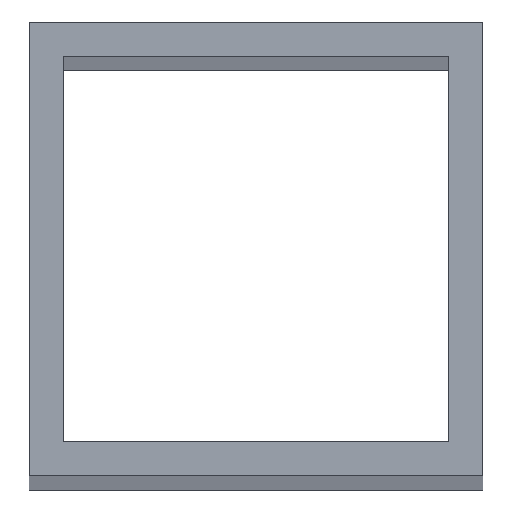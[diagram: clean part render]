
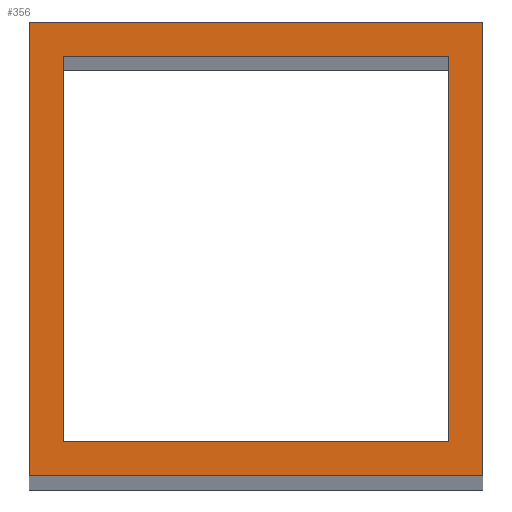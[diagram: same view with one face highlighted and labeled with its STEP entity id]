
A CAD part, top view. The second image highlights one B-rep face of the part: STEP entity #356.
In plain terms, the highlighted planar face has unit normal (0, 0, 1).
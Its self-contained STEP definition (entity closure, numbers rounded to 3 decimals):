
#32 = PLANE('',#33);
#33 = AXIS2_PLACEMENT_3D('',#34,#35,#36);
#34 = CARTESIAN_POINT('',(-20.,-20.,0.));
#35 = DIRECTION('',(0.,1.,0.));
#36 = DIRECTION('',(1.,0.,0.));
#55 = VERTEX_POINT('',#56);
#56 = CARTESIAN_POINT('',(-20.,-20.,758.));
#70 = PLANE('',#71);
#71 = AXIS2_PLACEMENT_3D('',#72,#73,#74);
#72 = CARTESIAN_POINT('',(-20.,20.,0.));
#73 = DIRECTION('',(1.,0.,-0.));
#74 = DIRECTION('',(0.,-1.,0.));
#82 = EDGE_CURVE('',#55,#83,#85,.T.);
#83 = VERTEX_POINT('',#84);
#84 = CARTESIAN_POINT('',(20.,-20.,758.));
#85 = SURFACE_CURVE('',#86,(#90,#96),.PCURVE_S1.);
#86 = LINE('',#87,#88);
#87 = CARTESIAN_POINT('',(2.,-20.,758.));
#88 = VECTOR('',#89,1.);
#89 = DIRECTION('',(1.,0.,0.));
#90 = PCURVE('',#32,#91);
#91 = DEFINITIONAL_REPRESENTATION('',(#92),#95);
#92 = B_SPLINE_CURVE_WITH_KNOTS('',1,(#93,#94),.UNSPECIFIED.,.F.,.F.,(2,
    2),(-22.,18.),.PIECEWISE_BEZIER_KNOTS.);
#93 = CARTESIAN_POINT('',(0.,-758.));
#94 = CARTESIAN_POINT('',(40.,-758.));
#95 = ( GEOMETRIC_REPRESENTATION_CONTEXT(2) 
PARAMETRIC_REPRESENTATION_CONTEXT() REPRESENTATION_CONTEXT('2D SPACE',''
  ) );
#96 = PCURVE('',#97,#102);
#97 = PLANE('',#98);
#98 = AXIS2_PLACEMENT_3D('',#99,#100,#101);
#99 = CARTESIAN_POINT('',(24.,-1857.,758.));
#100 = DIRECTION('',(0.,0.,1.));
#101 = DIRECTION('',(0.,1.,0.));
#102 = DEFINITIONAL_REPRESENTATION('',(#103),#106);
#103 = B_SPLINE_CURVE_WITH_KNOTS('',1,(#104,#105),.UNSPECIFIED.,.F.,.F.,
  (2,2),(-22.,18.),.PIECEWISE_BEZIER_KNOTS.);
#104 = CARTESIAN_POINT('',(1837.,44.));
#105 = CARTESIAN_POINT('',(1837.,4.));
#106 = ( GEOMETRIC_REPRESENTATION_CONTEXT(2) 
PARAMETRIC_REPRESENTATION_CONTEXT() REPRESENTATION_CONTEXT('2D SPACE',''
  ) );
#122 = PLANE('',#123);
#123 = AXIS2_PLACEMENT_3D('',#124,#125,#126);
#124 = CARTESIAN_POINT('',(20.,-20.,0.));
#125 = DIRECTION('',(-1.,0.,0.));
#126 = DIRECTION('',(0.,1.,0.));
#193 = PLANE('',#194);
#194 = AXIS2_PLACEMENT_3D('',#195,#196,#197);
#195 = CARTESIAN_POINT('',(20.,20.,0.));
#196 = DIRECTION('',(0.,-1.,0.));
#197 = DIRECTION('',(-1.,0.,0.));
#223 = PLANE('',#224);
#224 = AXIS2_PLACEMENT_3D('',#225,#226,#227);
#225 = CARTESIAN_POINT('',(-17.,-17.,0.));
#226 = DIRECTION('',(0.,1.,0.));
#227 = DIRECTION('',(1.,0.,0.));
#249 = PLANE('',#250);
#250 = AXIS2_PLACEMENT_3D('',#251,#252,#253);
#251 = CARTESIAN_POINT('',(-17.,17.,0.));
#252 = DIRECTION('',(1.,0.,-0.));
#253 = DIRECTION('',(0.,-1.,0.));
#275 = PLANE('',#276);
#276 = AXIS2_PLACEMENT_3D('',#277,#278,#279);
#277 = CARTESIAN_POINT('',(17.,17.,0.));
#278 = DIRECTION('',(0.,-1.,0.));
#279 = DIRECTION('',(-1.,0.,0.));
#299 = PLANE('',#300);
#300 = AXIS2_PLACEMENT_3D('',#301,#302,#303);
#301 = CARTESIAN_POINT('',(17.,-17.,0.));
#302 = DIRECTION('',(-1.,0.,0.));
#303 = DIRECTION('',(0.,1.,0.));
#315 = EDGE_CURVE('',#83,#316,#318,.T.);
#316 = VERTEX_POINT('',#317);
#317 = CARTESIAN_POINT('',(20.,20.,758.));
#318 = SURFACE_CURVE('',#319,(#323,#329),.PCURVE_S1.);
#319 = LINE('',#320,#321);
#320 = CARTESIAN_POINT('',(20.,-938.5,758.));
#321 = VECTOR('',#322,1.);
#322 = DIRECTION('',(0.,1.,-0.));
#323 = PCURVE('',#122,#324);
#324 = DEFINITIONAL_REPRESENTATION('',(#325),#328);
#325 = B_SPLINE_CURVE_WITH_KNOTS('',1,(#326,#327),.UNSPECIFIED.,.F.,.F.,
  (2,2),(918.5,958.5),.PIECEWISE_BEZIER_KNOTS.);
#326 = CARTESIAN_POINT('',(0.,-758.));
#327 = CARTESIAN_POINT('',(40.,-758.));
#328 = ( GEOMETRIC_REPRESENTATION_CONTEXT(2) 
PARAMETRIC_REPRESENTATION_CONTEXT() REPRESENTATION_CONTEXT('2D SPACE',''
  ) );
#329 = PCURVE('',#97,#330);
#330 = DEFINITIONAL_REPRESENTATION('',(#331),#334);
#331 = B_SPLINE_CURVE_WITH_KNOTS('',1,(#332,#333),.UNSPECIFIED.,.F.,.F.,
  (2,2),(918.5,958.5),.PIECEWISE_BEZIER_KNOTS.);
#332 = CARTESIAN_POINT('',(1837.,4.));
#333 = CARTESIAN_POINT('',(1877.,4.));
#334 = ( GEOMETRIC_REPRESENTATION_CONTEXT(2) 
PARAMETRIC_REPRESENTATION_CONTEXT() REPRESENTATION_CONTEXT('2D SPACE',''
  ) );
#356 = ADVANCED_FACE('',(#357,#401),#97,.T.);
#357 = FACE_BOUND('',#358,.T.);
#358 = EDGE_LOOP('',(#359,#380,#381,#382));
#359 = ORIENTED_EDGE('',*,*,#360,.T.);
#360 = EDGE_CURVE('',#361,#55,#363,.T.);
#361 = VERTEX_POINT('',#362);
#362 = CARTESIAN_POINT('',(-20.,20.,758.));
#363 = SURFACE_CURVE('',#364,(#368,#374),.PCURVE_S1.);
#364 = LINE('',#365,#366);
#365 = CARTESIAN_POINT('',(-20.,-918.5,758.));
#366 = VECTOR('',#367,1.);
#367 = DIRECTION('',(0.,-1.,0.));
#368 = PCURVE('',#97,#369);
#369 = DEFINITIONAL_REPRESENTATION('',(#370),#373);
#370 = B_SPLINE_CURVE_WITH_KNOTS('',1,(#371,#372),.UNSPECIFIED.,.F.,.F.,
  (2,2),(-938.5,-898.5),.PIECEWISE_BEZIER_KNOTS.);
#371 = CARTESIAN_POINT('',(1877.,44.));
#372 = CARTESIAN_POINT('',(1837.,44.));
#373 = ( GEOMETRIC_REPRESENTATION_CONTEXT(2) 
PARAMETRIC_REPRESENTATION_CONTEXT() REPRESENTATION_CONTEXT('2D SPACE',''
  ) );
#374 = PCURVE('',#70,#375);
#375 = DEFINITIONAL_REPRESENTATION('',(#376),#379);
#376 = B_SPLINE_CURVE_WITH_KNOTS('',1,(#377,#378),.UNSPECIFIED.,.F.,.F.,
  (2,2),(-938.5,-898.5),.PIECEWISE_BEZIER_KNOTS.);
#377 = CARTESIAN_POINT('',(0.,-758.));
#378 = CARTESIAN_POINT('',(40.,-758.));
#379 = ( GEOMETRIC_REPRESENTATION_CONTEXT(2) 
PARAMETRIC_REPRESENTATION_CONTEXT() REPRESENTATION_CONTEXT('2D SPACE',''
  ) );
#380 = ORIENTED_EDGE('',*,*,#82,.T.);
#381 = ORIENTED_EDGE('',*,*,#315,.T.);
#382 = ORIENTED_EDGE('',*,*,#383,.T.);
#383 = EDGE_CURVE('',#316,#361,#384,.T.);
#384 = SURFACE_CURVE('',#385,(#389,#395),.PCURVE_S1.);
#385 = LINE('',#386,#387);
#386 = CARTESIAN_POINT('',(22.,20.,758.));
#387 = VECTOR('',#388,1.);
#388 = DIRECTION('',(-1.,0.,0.));
#389 = PCURVE('',#97,#390);
#390 = DEFINITIONAL_REPRESENTATION('',(#391),#394);
#391 = B_SPLINE_CURVE_WITH_KNOTS('',1,(#392,#393),.UNSPECIFIED.,.F.,.F.,
  (2,2),(2.,42.),.PIECEWISE_BEZIER_KNOTS.);
#392 = CARTESIAN_POINT('',(1877.,4.));
#393 = CARTESIAN_POINT('',(1877.,44.));
#394 = ( GEOMETRIC_REPRESENTATION_CONTEXT(2) 
PARAMETRIC_REPRESENTATION_CONTEXT() REPRESENTATION_CONTEXT('2D SPACE',''
  ) );
#395 = PCURVE('',#193,#396);
#396 = DEFINITIONAL_REPRESENTATION('',(#397),#400);
#397 = B_SPLINE_CURVE_WITH_KNOTS('',1,(#398,#399),.UNSPECIFIED.,.F.,.F.,
  (2,2),(2.,42.),.PIECEWISE_BEZIER_KNOTS.);
#398 = CARTESIAN_POINT('',(0.,-758.));
#399 = CARTESIAN_POINT('',(40.,-758.));
#400 = ( GEOMETRIC_REPRESENTATION_CONTEXT(2) 
PARAMETRIC_REPRESENTATION_CONTEXT() REPRESENTATION_CONTEXT('2D SPACE',''
  ) );
#401 = FACE_BOUND('',#402,.T.);
#402 = EDGE_LOOP('',(#403,#426,#447,#468));
#403 = ORIENTED_EDGE('',*,*,#404,.F.);
#404 = EDGE_CURVE('',#405,#407,#409,.T.);
#405 = VERTEX_POINT('',#406);
#406 = CARTESIAN_POINT('',(-17.,-17.,758.));
#407 = VERTEX_POINT('',#408);
#408 = CARTESIAN_POINT('',(17.,-17.,758.));
#409 = SURFACE_CURVE('',#410,(#414,#420),.PCURVE_S1.);
#410 = LINE('',#411,#412);
#411 = CARTESIAN_POINT('',(3.5,-17.,758.));
#412 = VECTOR('',#413,1.);
#413 = DIRECTION('',(1.,0.,0.));
#414 = PCURVE('',#97,#415);
#415 = DEFINITIONAL_REPRESENTATION('',(#416),#419);
#416 = B_SPLINE_CURVE_WITH_KNOTS('',1,(#417,#418),.UNSPECIFIED.,.F.,.F.,
  (2,2),(-20.5,13.5),.PIECEWISE_BEZIER_KNOTS.);
#417 = CARTESIAN_POINT('',(1840.,41.));
#418 = CARTESIAN_POINT('',(1840.,7.));
#419 = ( GEOMETRIC_REPRESENTATION_CONTEXT(2) 
PARAMETRIC_REPRESENTATION_CONTEXT() REPRESENTATION_CONTEXT('2D SPACE',''
  ) );
#420 = PCURVE('',#223,#421);
#421 = DEFINITIONAL_REPRESENTATION('',(#422),#425);
#422 = B_SPLINE_CURVE_WITH_KNOTS('',1,(#423,#424),.UNSPECIFIED.,.F.,.F.,
  (2,2),(-20.5,13.5),.PIECEWISE_BEZIER_KNOTS.);
#423 = CARTESIAN_POINT('',(0.,-758.));
#424 = CARTESIAN_POINT('',(34.,-758.));
#425 = ( GEOMETRIC_REPRESENTATION_CONTEXT(2) 
PARAMETRIC_REPRESENTATION_CONTEXT() REPRESENTATION_CONTEXT('2D SPACE',''
  ) );
#426 = ORIENTED_EDGE('',*,*,#427,.F.);
#427 = EDGE_CURVE('',#428,#405,#430,.T.);
#428 = VERTEX_POINT('',#429);
#429 = CARTESIAN_POINT('',(-17.,17.,758.));
#430 = SURFACE_CURVE('',#431,(#435,#441),.PCURVE_S1.);
#431 = LINE('',#432,#433);
#432 = CARTESIAN_POINT('',(-17.,-920.,758.));
#433 = VECTOR('',#434,1.);
#434 = DIRECTION('',(0.,-1.,0.));
#435 = PCURVE('',#97,#436);
#436 = DEFINITIONAL_REPRESENTATION('',(#437),#440);
#437 = B_SPLINE_CURVE_WITH_KNOTS('',1,(#438,#439),.UNSPECIFIED.,.F.,.F.,
  (2,2),(-937.,-903.),.PIECEWISE_BEZIER_KNOTS.);
#438 = CARTESIAN_POINT('',(1874.,41.));
#439 = CARTESIAN_POINT('',(1840.,41.));
#440 = ( GEOMETRIC_REPRESENTATION_CONTEXT(2) 
PARAMETRIC_REPRESENTATION_CONTEXT() REPRESENTATION_CONTEXT('2D SPACE',''
  ) );
#441 = PCURVE('',#249,#442);
#442 = DEFINITIONAL_REPRESENTATION('',(#443),#446);
#443 = B_SPLINE_CURVE_WITH_KNOTS('',1,(#444,#445),.UNSPECIFIED.,.F.,.F.,
  (2,2),(-937.,-903.),.PIECEWISE_BEZIER_KNOTS.);
#444 = CARTESIAN_POINT('',(0.,-758.));
#445 = CARTESIAN_POINT('',(34.,-758.));
#446 = ( GEOMETRIC_REPRESENTATION_CONTEXT(2) 
PARAMETRIC_REPRESENTATION_CONTEXT() REPRESENTATION_CONTEXT('2D SPACE',''
  ) );
#447 = ORIENTED_EDGE('',*,*,#448,.F.);
#448 = EDGE_CURVE('',#449,#428,#451,.T.);
#449 = VERTEX_POINT('',#450);
#450 = CARTESIAN_POINT('',(17.,17.,758.));
#451 = SURFACE_CURVE('',#452,(#456,#462),.PCURVE_S1.);
#452 = LINE('',#453,#454);
#453 = CARTESIAN_POINT('',(20.5,17.,758.));
#454 = VECTOR('',#455,1.);
#455 = DIRECTION('',(-1.,0.,0.));
#456 = PCURVE('',#97,#457);
#457 = DEFINITIONAL_REPRESENTATION('',(#458),#461);
#458 = B_SPLINE_CURVE_WITH_KNOTS('',1,(#459,#460),.UNSPECIFIED.,.F.,.F.,
  (2,2),(3.5,37.5),.PIECEWISE_BEZIER_KNOTS.);
#459 = CARTESIAN_POINT('',(1874.,7.));
#460 = CARTESIAN_POINT('',(1874.,41.));
#461 = ( GEOMETRIC_REPRESENTATION_CONTEXT(2) 
PARAMETRIC_REPRESENTATION_CONTEXT() REPRESENTATION_CONTEXT('2D SPACE',''
  ) );
#462 = PCURVE('',#275,#463);
#463 = DEFINITIONAL_REPRESENTATION('',(#464),#467);
#464 = B_SPLINE_CURVE_WITH_KNOTS('',1,(#465,#466),.UNSPECIFIED.,.F.,.F.,
  (2,2),(3.5,37.5),.PIECEWISE_BEZIER_KNOTS.);
#465 = CARTESIAN_POINT('',(0.,-758.));
#466 = CARTESIAN_POINT('',(34.,-758.));
#467 = ( GEOMETRIC_REPRESENTATION_CONTEXT(2) 
PARAMETRIC_REPRESENTATION_CONTEXT() REPRESENTATION_CONTEXT('2D SPACE',''
  ) );
#468 = ORIENTED_EDGE('',*,*,#469,.F.);
#469 = EDGE_CURVE('',#407,#449,#470,.T.);
#470 = SURFACE_CURVE('',#471,(#475,#481),.PCURVE_S1.);
#471 = LINE('',#472,#473);
#472 = CARTESIAN_POINT('',(17.,-937.,758.));
#473 = VECTOR('',#474,1.);
#474 = DIRECTION('',(0.,1.,-0.));
#475 = PCURVE('',#97,#476);
#476 = DEFINITIONAL_REPRESENTATION('',(#477),#480);
#477 = B_SPLINE_CURVE_WITH_KNOTS('',1,(#478,#479),.UNSPECIFIED.,.F.,.F.,
  (2,2),(920.,954.),.PIECEWISE_BEZIER_KNOTS.);
#478 = CARTESIAN_POINT('',(1840.,7.));
#479 = CARTESIAN_POINT('',(1874.,7.));
#480 = ( GEOMETRIC_REPRESENTATION_CONTEXT(2) 
PARAMETRIC_REPRESENTATION_CONTEXT() REPRESENTATION_CONTEXT('2D SPACE',''
  ) );
#481 = PCURVE('',#299,#482);
#482 = DEFINITIONAL_REPRESENTATION('',(#483),#486);
#483 = B_SPLINE_CURVE_WITH_KNOTS('',1,(#484,#485),.UNSPECIFIED.,.F.,.F.,
  (2,2),(920.,954.),.PIECEWISE_BEZIER_KNOTS.);
#484 = CARTESIAN_POINT('',(0.,-758.));
#485 = CARTESIAN_POINT('',(34.,-758.));
#486 = ( GEOMETRIC_REPRESENTATION_CONTEXT(2) 
PARAMETRIC_REPRESENTATION_CONTEXT() REPRESENTATION_CONTEXT('2D SPACE',''
  ) );
